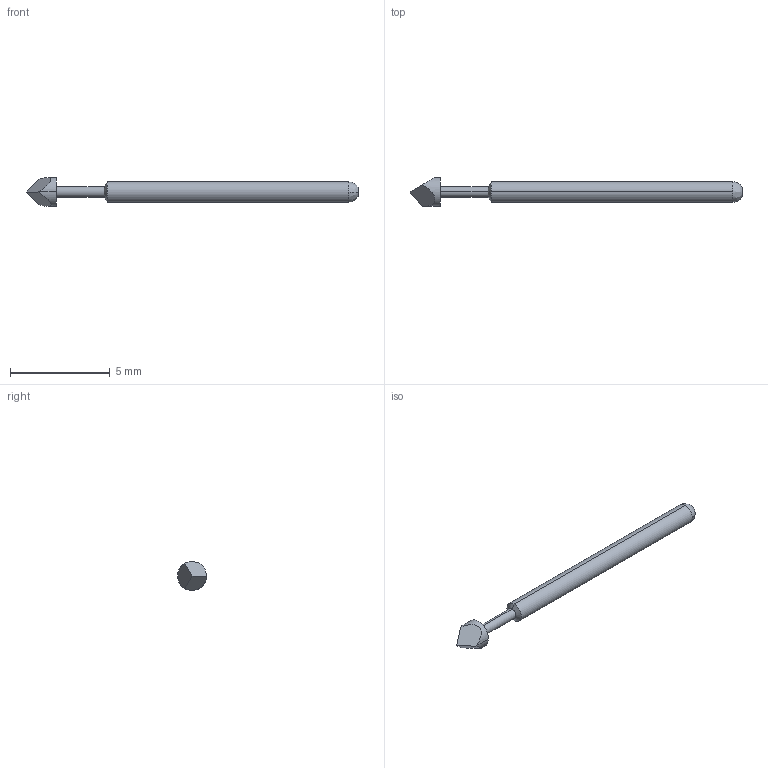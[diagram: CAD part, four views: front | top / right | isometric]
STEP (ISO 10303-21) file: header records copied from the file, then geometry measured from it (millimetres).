
FILE_DESCRIPTION (( 'STEP AP214' ), '1' );
FILE_NAME ('PA2T.STEP', '2021-08-25T11:52:28', ( '' ), ( '' ), 'SwSTEP 2.0', 'SolidWorks 2021', '' );
FILE_SCHEMA (( 'AUTOMOTIVE_DESIGN' ));
Length unit declared in the file: inch
Products named in the file (1): PA2T
Bounding box: 16.64 x 1.45 x 1.45 mm (x, y, z)
Volume: 12.1 mm3; surface area: 51.9 mm2
Topology: 1 solids, 1 shells, 15 faces, 31 edges, 19 vertices
Faces by surface type: cylinder 6, plane 5, bspline 2, cone 2
Entity records: 463 total; most frequent: CARTESIAN_POINT 108, DIRECTION 71, ORIENTED_EDGE 62, EDGE_CURVE 31, AXIS2_PLACEMENT_3D 30, VERTEX_POINT 19, EDGE_LOOP 16, CIRCLE 16
